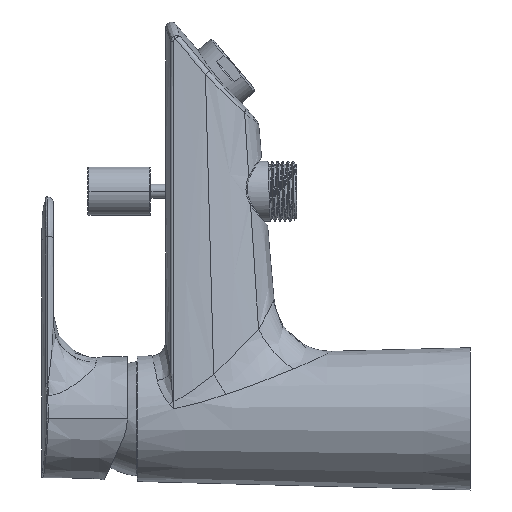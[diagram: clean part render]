
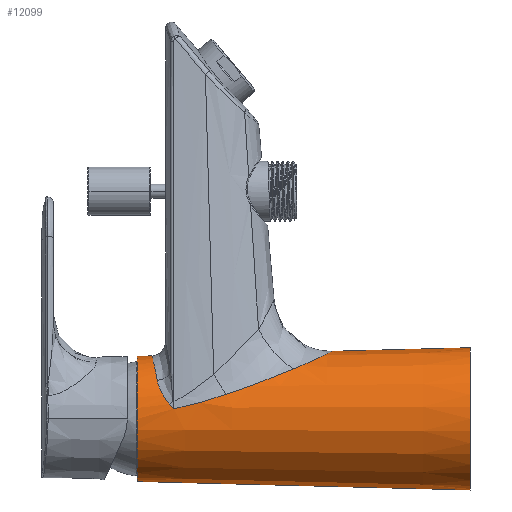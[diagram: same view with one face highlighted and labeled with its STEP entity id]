
A CAD part, left-side view. The second image highlights one B-rep face of the part: STEP entity #12099.
In plain terms, the highlighted conical face has half-angle 1.469 degrees and reference radius 23.5 mm.
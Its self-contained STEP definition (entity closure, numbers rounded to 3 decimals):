
#2582=DIRECTION('',(-0.026,1.,0.));
#2583=VECTOR('',#2582,48.493);
#2584=CARTESIAN_POINT('',(25.,-105.,0.));
#2585=LINE('',#2584,#2583);
#2657=CARTESIAN_POINT('',(22.131,6.872,
0.));
#2672=DIRECTION('',(-0.026,1.,0.));
#2673=VECTOR('',#2672,5.13);
#2674=CARTESIAN_POINT('',(22.131,6.872,
0.));
#2675=LINE('',#2674,#2673);
#2681=CARTESIAN_POINT('',(0.,-105.,0.));
#2682=DIRECTION('',(0.,-1.,0.));
#2683=DIRECTION('',(1.,0.,0.));
#2684=AXIS2_PLACEMENT_3D('',#2681,#2682,#2683);
#2686=DIRECTION('',(0.026,1.,0.));
#2687=VECTOR('',#2686,117.038);
#2688=CARTESIAN_POINT('',(-25.,-105.,0.));
#2689=LINE('',#2688,#2687);
#2690=CARTESIAN_POINT('',(0.,12.,0.));
#2691=DIRECTION('',(0.,-1.,0.));
#2692=DIRECTION('',(1.,0.,0.));
#2693=AXIS2_PLACEMENT_3D('',#2690,#2691,#2692);
#2695=CARTESIAN_POINT('',(13.574,4.945,17.543));
#2696=CARTESIAN_POINT('',(14.088,5.029,17.142));
#2697=CARTESIAN_POINT('',(15.062,5.201,16.309));
#2698=CARTESIAN_POINT('',(16.34,5.451,15.017));
#2699=CARTESIAN_POINT('',(17.513,5.699,13.621));
#2700=CARTESIAN_POINT('',(18.549,5.936,12.16));
#2701=CARTESIAN_POINT('',(19.456,6.155,10.635));
#2702=CARTESIAN_POINT('',(20.229,6.352,9.065));
#2703=CARTESIAN_POINT('',(20.87,6.521,7.458));
#2704=CARTESIAN_POINT('',(21.377,6.659,5.834));
#2705=CARTESIAN_POINT('',(21.774,6.77,4.114));
#2706=CARTESIAN_POINT('',(22.052,6.849,2.214));
#2707=CARTESIAN_POINT('',(22.131,6.872,0.763));
#2708=CARTESIAN_POINT('',(22.131,6.872,
0.));
#2710=CARTESIAN_POINT('',(5.183,0.757,21.677));
#2711=CARTESIAN_POINT('',(5.401,0.956,21.62));
#2712=CARTESIAN_POINT('',(5.85,1.32,21.496));
#2713=CARTESIAN_POINT('',(6.522,1.798,21.289));
#2714=CARTESIAN_POINT('',(7.209,2.243,21.054));
#2715=CARTESIAN_POINT('',(7.888,2.652,20.798));
#2716=CARTESIAN_POINT('',(8.57,3.035,20.516));
#2717=CARTESIAN_POINT('',(9.262,3.399,20.203));
#2718=CARTESIAN_POINT('',(9.964,3.74,19.856));
#2719=CARTESIAN_POINT('',(10.632,4.038,19.498));
#2720=CARTESIAN_POINT('',(11.283,4.301,19.121));
#2721=CARTESIAN_POINT('',(11.982,4.551,18.685));
#2722=CARTESIAN_POINT('',(12.74,4.777,18.171));
#2723=CARTESIAN_POINT('',(13.29,4.898,17.764));
#2724=CARTESIAN_POINT('',(13.574,4.945,17.543));
#2726=CARTESIAN_POINT('',(3.526,-0.839,
22.049));
#2727=CARTESIAN_POINT('',(3.721,-0.646,
22.013));
#2728=CARTESIAN_POINT('',(4.102,-0.268,
21.937));
#2729=CARTESIAN_POINT('',(4.654,0.265,21.812));
#2730=CARTESIAN_POINT('',(5.009,0.597,21.723));
#2731=CARTESIAN_POINT('',(5.183,0.757,21.677));
#2733=CARTESIAN_POINT('',(8.629,-19.294,21.107));
#2734=CARTESIAN_POINT('',(8.401,-18.591,21.18));
#2735=CARTESIAN_POINT('',(7.959,-17.222,21.315));
#2736=CARTESIAN_POINT('',(7.345,-15.305,21.482));
#2737=CARTESIAN_POINT('',(6.76,-13.459,21.623));
#2738=CARTESIAN_POINT('',(6.205,-11.674,21.741));
#2739=CARTESIAN_POINT('',(5.674,-9.922,21.839));
#2740=CARTESIAN_POINT('',(5.164,-8.176,21.919));
#2741=CARTESIAN_POINT('',(4.675,-6.409,21.982));
#2742=CARTESIAN_POINT('',(4.219,-4.607,22.027));
#2743=CARTESIAN_POINT('',(3.816,-2.75,22.051));
#2744=CARTESIAN_POINT('',(3.607,-1.483,22.053));
#2745=CARTESIAN_POINT('',(3.526,-0.839,
22.049));
#2747=CARTESIAN_POINT('',(17.567,-42.99,15.474));
#2748=CARTESIAN_POINT('',(17.291,-42.299,15.76));
#2749=CARTESIAN_POINT('',(16.74,-40.917,16.302));
#2750=CARTESIAN_POINT('',(15.919,-38.859,17.031));
#2751=CARTESIAN_POINT('',(15.104,-36.805,17.688));
#2752=CARTESIAN_POINT('',(14.293,-34.749,18.282));
#2753=CARTESIAN_POINT('',(13.486,-32.683,18.819));
#2754=CARTESIAN_POINT('',(12.681,-30.598,19.306));
#2755=CARTESIAN_POINT('',(11.878,-28.48,19.747));
#2756=CARTESIAN_POINT('',(11.071,-26.314,20.147));
#2757=CARTESIAN_POINT('',(10.26,-24.078,20.507));
#2758=CARTESIAN_POINT('',(9.445,-21.756,20.83));
#2759=CARTESIAN_POINT('',(8.899,-20.128,21.019));
#2760=CARTESIAN_POINT('',(8.629,-19.294,21.107));
#2762=CARTESIAN_POINT('',(23.757,-56.522,
0.));
#2763=CARTESIAN_POINT('',(23.757,-56.522,
0.467));
#2764=CARTESIAN_POINT('',(23.728,-56.464,1.362));
#2765=CARTESIAN_POINT('',(23.62,-56.247,2.576));
#2766=CARTESIAN_POINT('',(23.461,-55.929,3.696));
#2767=CARTESIAN_POINT('',(23.268,-55.543,4.703));
#2768=CARTESIAN_POINT('',(23.056,-55.117,5.598));
#2769=CARTESIAN_POINT('',(22.835,-54.669,6.396));
#2770=CARTESIAN_POINT('',(22.605,-54.202,7.125));
#2771=CARTESIAN_POINT('',(22.363,-53.707,7.813));
#2772=CARTESIAN_POINT('',(22.105,-53.176,8.477));
#2773=CARTESIAN_POINT('',(21.832,-52.61,9.12));
#2774=CARTESIAN_POINT('',(21.546,-52.012,9.737));
#2775=CARTESIAN_POINT('',(21.251,-51.39,10.329));
#2776=CARTESIAN_POINT('',(20.943,-50.734,10.904));
#2777=CARTESIAN_POINT('',(20.613,-50.024,11.479));
#2778=CARTESIAN_POINT('',(20.248,-49.23,12.073));
#2779=CARTESIAN_POINT('',(19.836,-48.322,12.696));
#2780=CARTESIAN_POINT('',(19.362,-47.259,13.361));
#2781=CARTESIAN_POINT('',(18.824,-46.026,14.057));
#2782=CARTESIAN_POINT('',(18.226,-44.617,14.768));
#2783=CARTESIAN_POINT('',(17.792,-43.554,15.24));
#2784=CARTESIAN_POINT('',(17.567,-42.99,15.474));
#5822=VERTEX_POINT('',#2747);
#5823=VERTEX_POINT('',#2760);
#5825=VERTEX_POINT('',#2762);
#5838=VERTEX_POINT('',#2657);
#5840=VERTEX_POINT('',#2695);
#5842=VERTEX_POINT('',#2710);
#5843=VERTEX_POINT('',#2726);
#6304=CARTESIAN_POINT('',(-22.,12.,0.));
#6305=CARTESIAN_POINT('',(22.,12.,0.));
#6306=VERTEX_POINT('',#6304);
#6307=VERTEX_POINT('',#6305);
#6409=CARTESIAN_POINT('',(-25.,-105.,0.));
#6410=CARTESIAN_POINT('',(25.,-105.,0.));
#6411=VERTEX_POINT('',#6409);
#6412=VERTEX_POINT('',#6410);
#12074=CARTESIAN_POINT('',(0.,-46.5,0.));
#12075=DIRECTION('',(0.,-1.,0.));
#12076=DIRECTION('',(1.,0.,0.));
#12077=AXIS2_PLACEMENT_3D('',#12074,#12075,#12076);
#12078=CONICAL_SURFACE('',#12077,23.5,1.469);
#12079=ORIENTED_EDGE('',*,*,#12036,.T.);
#12080=ORIENTED_EDGE('',*,*,#12069,.T.);
#12082=ORIENTED_EDGE('',*,*,#12081,.F.);
#12083=ORIENTED_EDGE('',*,*,#12065,.F.);
#12085=ORIENTED_EDGE('',*,*,#12084,.F.);
#12087=ORIENTED_EDGE('',*,*,#12086,.F.);
#12089=ORIENTED_EDGE('',*,*,#12088,.F.);
#12091=ORIENTED_EDGE('',*,*,#12090,.F.);
#12093=ORIENTED_EDGE('',*,*,#12092,.F.);
#12095=ORIENTED_EDGE('',*,*,#12094,.F.);
#12096=ORIENTED_EDGE('',*,*,#12051,.F.);
#12097=EDGE_LOOP('',(#12079,#12080,#12082,#12083,#12085,#12087,#12089,#12091,
#12093,#12095,#12096));
#12098=FACE_OUTER_BOUND('',#12097,.F.);
#12099=ADVANCED_FACE('',(#12098),#12078,.T.);
#2685=CIRCLE('',#2684,25.);
#2694=CIRCLE('',#2693,22.);
#2709=B_SPLINE_CURVE_WITH_KNOTS('',3,(#2695,#2696,#2697,#2698,#2699,#2700,#2701,
#2702,#2703,#2704,#2705,#2706,#2707,#2708),.UNSPECIFIED.,.F.,.F.,(4,1,1,1,1,1,1,
1,1,1,1,4),(0.,0.091,0.182,0.273,
0.364,0.455,0.545,0.636,
0.727,0.818,0.909,1.),.UNSPECIFIED.);
#2725=B_SPLINE_CURVE_WITH_KNOTS('',3,(#2710,#2711,#2712,#2713,#2714,#2715,#2716,
#2717,#2718,#2719,#2720,#2721,#2722,#2723,#2724),.UNSPECIFIED.,.F.,.F.,(4,1,1,1,
1,1,1,1,1,1,1,1,4),(0.,0.083,0.167,0.25,
0.333,0.417,0.5,0.583,0.667,
0.75,0.833,0.917,1.),.UNSPECIFIED.);
#2732=B_SPLINE_CURVE_WITH_KNOTS('',3,(#2726,#2727,#2728,#2729,#2730,#2731),
.UNSPECIFIED.,.F.,.F.,(4,1,1,4),(0.,0.333,0.667,1.),
.UNSPECIFIED.);
#2746=B_SPLINE_CURVE_WITH_KNOTS('',3,(#2733,#2734,#2735,#2736,#2737,#2738,#2739,
#2740,#2741,#2742,#2743,#2744,#2745),.UNSPECIFIED.,.F.,.F.,(4,1,1,1,1,1,1,1,1,1,
4),(0.,0.1,0.2,0.3,0.4,0.5,0.6,0.7,0.8,0.9,1.),
.UNSPECIFIED.);
#2761=B_SPLINE_CURVE_WITH_KNOTS('',3,(#2747,#2748,#2749,#2750,#2751,#2752,#2753,
#2754,#2755,#2756,#2757,#2758,#2759,#2760),.UNSPECIFIED.,.F.,.F.,(4,1,1,1,1,1,1,
1,1,1,1,4),(0.,0.091,0.182,0.273,
0.364,0.455,0.545,0.636,
0.727,0.818,0.909,1.),.UNSPECIFIED.);
#2785=B_SPLINE_CURVE_WITH_KNOTS('',3,(#2762,#2763,#2764,#2765,#2766,#2767,#2768,
#2769,#2770,#2771,#2772,#2773,#2774,#2775,#2776,#2777,#2778,#2779,#2780,#2781,
#2782,#2783,#2784),.UNSPECIFIED.,.F.,.F.,(4,1,1,1,1,1,1,1,1,1,1,1,1,1,1,1,1,1,1,
1,4),(0.,0.05,0.1,0.15,0.2,0.25,0.3,0.35,0.4,0.45,0.5,
0.55,0.6,0.65,0.7,0.75,0.8,0.85,0.9,0.95,1.),.UNSPECIFIED.);
#12036=EDGE_CURVE('',#6412,#6411,#2685,.T.);
#12051=EDGE_CURVE('',#6412,#5825,#2585,.T.);
#12065=EDGE_CURVE('',#5838,#6307,#2675,.T.);
#12069=EDGE_CURVE('',#6411,#6306,#2689,.T.);
#12081=EDGE_CURVE('',#6307,#6306,#2694,.T.);
#12084=EDGE_CURVE('',#5840,#5838,#2709,.T.);
#12086=EDGE_CURVE('',#5842,#5840,#2725,.T.);
#12088=EDGE_CURVE('',#5843,#5842,#2732,.T.);
#12090=EDGE_CURVE('',#5823,#5843,#2746,.T.);
#12092=EDGE_CURVE('',#5822,#5823,#2761,.T.);
#12094=EDGE_CURVE('',#5825,#5822,#2785,.T.);
